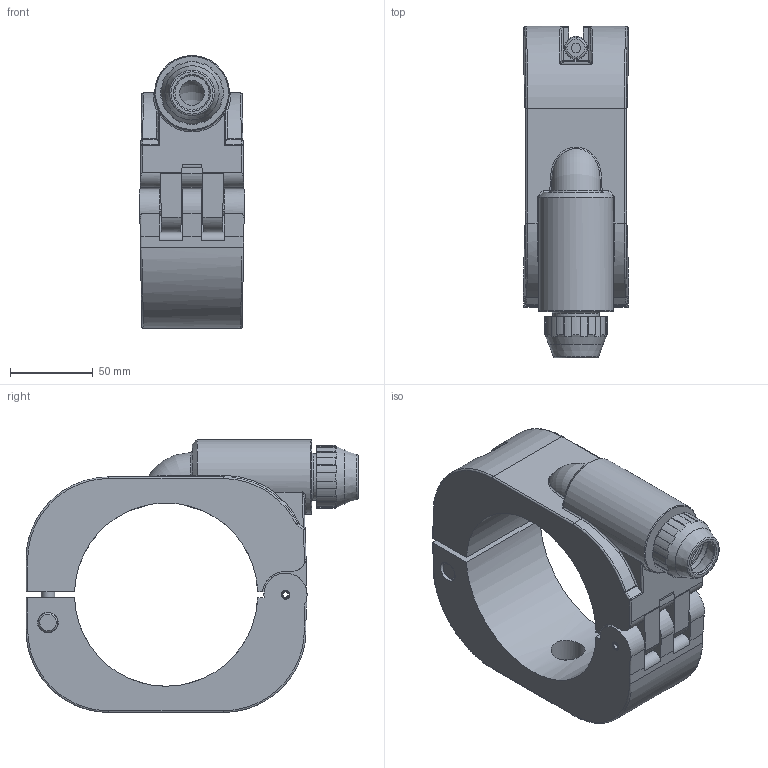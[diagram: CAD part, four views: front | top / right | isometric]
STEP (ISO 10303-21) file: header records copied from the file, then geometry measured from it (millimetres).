
FILE_DESCRIPTION( ( 'STEP AP214' ), '1' );
FILE_NAME( ' ', ' ', ( ' ' ), ( ' ' ), 'PSStep 11.0', 'VISI 17.0', ' ' );
FILE_SCHEMA( ( 'AUTOMOTIVE_DESIGN { 1 0 10303 214 1 1 1 1 }' ) );
Length unit declared in the file: millimetre
Products named in the file (9): 1; 2; 3; 4; 5; 6; 7; 8; 9
Bounding box: 63.45 x 200.23 x 164.5 mm (x, y, z)
Volume: 795482.8 mm3; surface area: 124024.7 mm2
Topology: 9 solids, 9 shells, 287 faces, 751 edges, 487 vertices
Faces by surface type: cylinder 114, plane 109, bspline 34, cone 11, torus 9, sphere 6, extrusion 4
Full cylindrical faces by diameter (mm): 5.3 x1, 5.8 x4, 8 x2, 9 x1, 12 x1, 12.5 x1, 13 x1, 14 x1, 15 x1, 20 x1, 20.5 x1, 20.6 x2, 24.9 x1, 28 x1, 29.88 x2, 31 x1, 31.88 x1, 33 x2, 45 x1
Entity records: 17811 total; most frequent: CARTESIAN_POINT 8724, DIRECTION 1359, ORIENTED_EDGE 1358, EDGE_CURVE 679, AXIS2_PLACEMENT_3D 521, VERTEX_POINT 461, EDGE_LOOP 366, FACE_OUTER_BOUND 321
